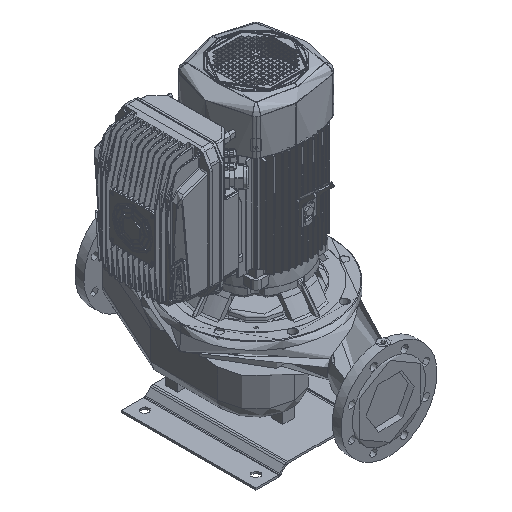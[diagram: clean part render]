
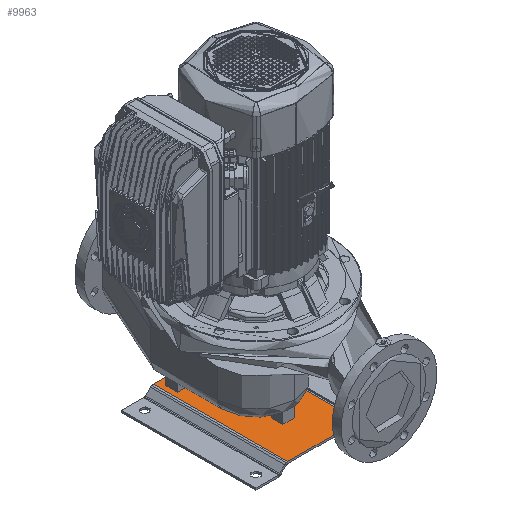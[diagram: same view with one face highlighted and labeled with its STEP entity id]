
A CAD part, isometric view. The second image highlights one B-rep face of the part: STEP entity #9963.
In plain terms, the highlighted planar face has unit normal (0, 0, 1) as drawn and (0, 1, 0) by its records, which use the part's own axes.
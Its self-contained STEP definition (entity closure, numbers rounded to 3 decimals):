
#9963=ADVANCED_FACE('',(#28922,#28923,#28924,#28925,#28926,#28927),#28928,.T.);
#10007=EDGE_CURVE('',#29002,#29003,#29004,.T.);
#28922=FACE_BOUND('',#58072,.T.);
#28923=FACE_BOUND('',#58073,.T.);
#28924=FACE_BOUND('',#58074,.T.);
#28925=FACE_BOUND('',#58075,.T.);
#28926=FACE_BOUND('',#58076,.T.);
#28927=FACE_OUTER_BOUND('',#58077,.T.);
#28928=PLANE('',#58078);
#29002=VERTEX_POINT('',#58161);
#29003=VERTEX_POINT('',#58162);
#29004=LINE('',#58163,#58164);
#58072=EDGE_LOOP('',(#331125,#331126));
#58073=EDGE_LOOP('',(#331127,#331128));
#58074=EDGE_LOOP('',(#331129,#331130));
#58075=EDGE_LOOP('',(#331131,#331132));
#58076=EDGE_LOOP('',(#331133,#331134));
#58077=EDGE_LOOP('',(#331135,#331136,#331137,#331138));
#58078=AXIS2_PLACEMENT_3D('',#331139,#331140,#331141);
#58161=CARTESIAN_POINT('',(82.556,23.,0.));
#58162=CARTESIAN_POINT('',(267.444,23.,0.));
#58163=CARTESIAN_POINT('',(78.,23.,0.));
#58164=VECTOR('',#331340,1.);
#331125=ORIENTED_EDGE('',*,*,#409611,.T.);
#331126=ORIENTED_EDGE('',*,*,#409601,.T.);
#331127=ORIENTED_EDGE('',*,*,#409614,.T.);
#331128=ORIENTED_EDGE('',*,*,#409596,.T.);
#331129=ORIENTED_EDGE('',*,*,#409620,.T.);
#331130=ORIENTED_EDGE('',*,*,#409586,.T.);
#331131=ORIENTED_EDGE('',*,*,#409626,.T.);
#331132=ORIENTED_EDGE('',*,*,#409576,.T.);
#331133=ORIENTED_EDGE('',*,*,#409632,.T.);
#331134=ORIENTED_EDGE('',*,*,#409566,.T.);
#331135=ORIENTED_EDGE('',*,*,#409649,.F.);
#331136=ORIENTED_EDGE('',*,*,#409650,.F.);
#331137=ORIENTED_EDGE('',*,*,#409550,.F.);
#331138=ORIENTED_EDGE('',*,*,#10007,.F.);
#331139=CARTESIAN_POINT('',(126.5,23.,0.));
#331140=DIRECTION('',(0.0,1.0,0.0));
#331141=DIRECTION('',(-1.0,0.0,0.0));
#331340=DIRECTION('',(1.0,0.0,0.0));
#409550=EDGE_CURVE('',#29003,#441723,#441724,.T.);
#409566=EDGE_CURVE('',#441744,#441748,#441750,.T.);
#409576=EDGE_CURVE('',#441762,#441766,#441768,.T.);
#409586=EDGE_CURVE('',#441780,#441784,#441786,.T.);
#409596=EDGE_CURVE('',#441798,#441802,#441804,.T.);
#409601=EDGE_CURVE('',#441807,#441811,#441813,.T.);
#409611=EDGE_CURVE('',#441811,#441807,#441827,.T.);
#409614=EDGE_CURVE('',#441802,#441798,#441830,.T.);
#409620=EDGE_CURVE('',#441784,#441780,#441836,.T.);
#409626=EDGE_CURVE('',#441766,#441762,#441842,.T.);
#409632=EDGE_CURVE('',#441748,#441744,#441848,.T.);
#409649=EDGE_CURVE('',#441871,#29002,#441872,.T.);
#409650=EDGE_CURVE('',#441723,#441871,#441873,.T.);
#441723=VERTEX_POINT('',#488193);
#441724=LINE('',#488194,#488195);
#441744=VERTEX_POINT('',#488219);
#441748=VERTEX_POINT('',#488224);
#441750=CIRCLE('',#488227,7.);
#441762=VERTEX_POINT('',#488241);
#441766=VERTEX_POINT('',#488246);
#441768=CIRCLE('',#488249,7.);
#441780=VERTEX_POINT('',#488263);
#441784=VERTEX_POINT('',#488268);
#441786=CIRCLE('',#488271,7.);
#441798=VERTEX_POINT('',#488285);
#441802=VERTEX_POINT('',#488290);
#441804=CIRCLE('',#488293,7.);
#441807=VERTEX_POINT('',#488296);
#441811=VERTEX_POINT('',#488301);
#441813=CIRCLE('',#488304,7.);
#441827=CIRCLE('',#488320,7.);
#441830=CIRCLE('',#488323,7.);
#441836=CIRCLE('',#488329,7.);
#441842=CIRCLE('',#488335,7.);
#441848=CIRCLE('',#488341,7.);
#441871=VERTEX_POINT('',#488374);
#441872=LINE('',#488375,#488376);
#441873=LINE('',#488377,#488378);
#488193=CARTESIAN_POINT('',(267.444,23.,350.));
#488194=CARTESIAN_POINT('',(267.444,23.,0.));
#488195=VECTOR('',#642477,1.);
#488219=CARTESIAN_POINT('',(240.,23.,308.));
#488224=CARTESIAN_POINT('',(240.,23.,322.));
#488227=AXIS2_PLACEMENT_3D('',#642502,#642503,#642504);
#488241=CARTESIAN_POINT('',(110.,23.,308.));
#488246=CARTESIAN_POINT('',(110.,23.,322.));
#488249=AXIS2_PLACEMENT_3D('',#642518,#642519,#642520);
#488263=CARTESIAN_POINT('',(130.,23.,233.));
#488268=CARTESIAN_POINT('',(130.,23.,247.));
#488271=AXIS2_PLACEMENT_3D('',#642534,#642535,#642536);
#488285=CARTESIAN_POINT('',(169.198,23.,101.083));
#488290=CARTESIAN_POINT('',(180.802,23.,108.917));
#488293=AXIS2_PLACEMENT_3D('',#642550,#642551,#642552);
#488296=CARTESIAN_POINT('',(220.,23.,233.));
#488301=CARTESIAN_POINT('',(220.,23.,247.));
#488304=AXIS2_PLACEMENT_3D('',#642558,#642559,#642560);
#488320=AXIS2_PLACEMENT_3D('',#642575,#642576,#642577);
#488323=AXIS2_PLACEMENT_3D('',#642581,#642582,#642583);
#488329=AXIS2_PLACEMENT_3D('',#642593,#642594,#642595);
#488335=AXIS2_PLACEMENT_3D('',#642605,#642606,#642607);
#488341=AXIS2_PLACEMENT_3D('',#642617,#642618,#642619);
#488374=CARTESIAN_POINT('',(82.556,23.,350.));
#488375=CARTESIAN_POINT('',(82.556,23.,0.));
#488376=VECTOR('',#642633,1.);
#488377=CARTESIAN_POINT('',(272.,23.,350.));
#488378=VECTOR('',#642634,1.);
#642477=DIRECTION('',(0.0,0.0,1.0));
#642502=CARTESIAN_POINT('',(240.,23.,315.));
#642503=DIRECTION('',(0.0,-1.0,0.0));
#642504=DIRECTION('',(0.0,0.0,-1.0));
#642518=CARTESIAN_POINT('',(110.,23.,315.));
#642519=DIRECTION('',(0.0,-1.0,0.0));
#642520=DIRECTION('',(0.0,0.0,-1.0));
#642534=CARTESIAN_POINT('',(130.,23.,240.));
#642535=DIRECTION('',(0.0,-1.0,0.0));
#642536=DIRECTION('',(0.0,0.0,-1.0));
#642550=CARTESIAN_POINT('',(175.,23.,105.));
#642551=DIRECTION('',(-0.0,-1.0,0.0));
#642552=DIRECTION('',(-0.829,0.0,-0.56));
#642558=CARTESIAN_POINT('',(220.,23.,240.));
#642559=DIRECTION('',(0.0,-1.0,0.0));
#642560=DIRECTION('',(0.0,0.0,-1.0));
#642575=CARTESIAN_POINT('',(220.,23.,240.));
#642576=DIRECTION('',(0.0,-1.0,0.0));
#642577=DIRECTION('',(0.0,0.0,-1.0));
#642581=CARTESIAN_POINT('',(175.,23.,105.));
#642582=DIRECTION('',(-0.0,-1.0,0.0));
#642583=DIRECTION('',(-0.829,0.0,-0.56));
#642593=CARTESIAN_POINT('',(130.,23.,240.));
#642594=DIRECTION('',(0.0,-1.0,0.0));
#642595=DIRECTION('',(0.0,0.0,-1.0));
#642605=CARTESIAN_POINT('',(110.,23.,315.));
#642606=DIRECTION('',(0.0,-1.0,0.0));
#642607=DIRECTION('',(0.0,0.0,-1.0));
#642617=CARTESIAN_POINT('',(240.,23.,315.));
#642618=DIRECTION('',(0.0,-1.0,0.0));
#642619=DIRECTION('',(0.0,0.0,-1.0));
#642633=DIRECTION('',(0.0,0.0,-1.0));
#642634=DIRECTION('',(-1.0,0.0,0.0));
